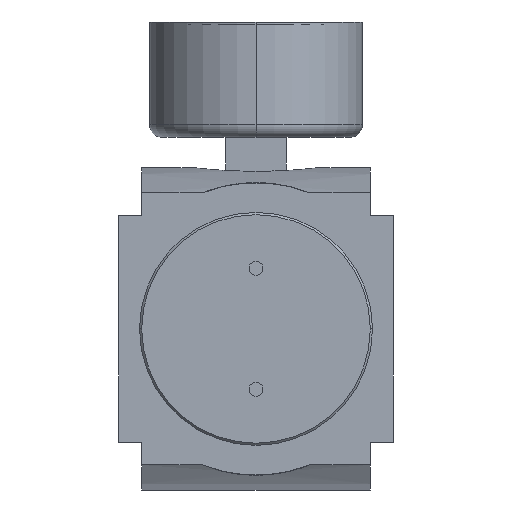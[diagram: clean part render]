
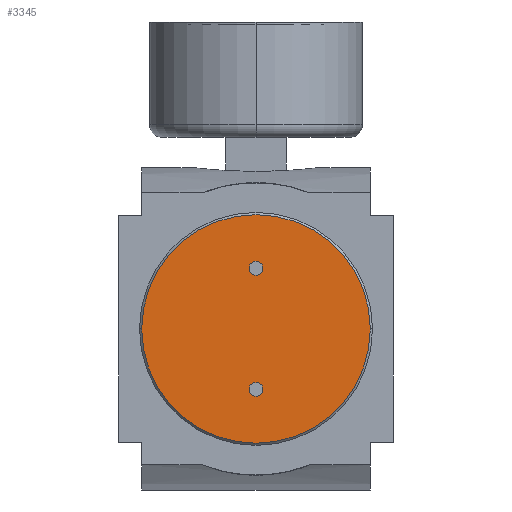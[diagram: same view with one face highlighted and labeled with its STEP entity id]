
A CAD part, front view. The second image highlights one B-rep face of the part: STEP entity #3345.
In plain terms, the highlighted planar face has unit normal (0, -1, 0).
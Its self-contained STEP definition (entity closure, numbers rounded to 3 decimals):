
#1335=CARTESIAN_POINT('',(0.,-39.5,0.));
#1336=DIRECTION('',(0.,-1.,0.));
#1337=DIRECTION('',(-1.,0.,0.));
#1338=AXIS2_PLACEMENT_3D('',#1335,#1336,#1337);
#1340=CARTESIAN_POINT('',(0.,-39.5,0.));
#1341=DIRECTION('',(0.,1.,0.));
#1342=DIRECTION('',(-1.,0.,0.));
#1343=AXIS2_PLACEMENT_3D('',#1340,#1341,#1342);
#1345=CARTESIAN_POINT('',(0.,-39.5,13.9));
#1346=DIRECTION('',(0.,-1.,0.));
#1347=DIRECTION('',(0.,0.,-1.));
#1348=AXIS2_PLACEMENT_3D('',#1345,#1346,#1347);
#1350=CARTESIAN_POINT('',(0.,-39.5,13.9));
#1351=DIRECTION('',(0.,-1.,0.));
#1352=DIRECTION('',(0.,0.,1.));
#1353=AXIS2_PLACEMENT_3D('',#1350,#1351,#1352);
#1355=CARTESIAN_POINT('',(0.,-39.5,-13.9));
#1356=DIRECTION('',(0.,-1.,0.));
#1357=DIRECTION('',(0.,0.,-1.));
#1358=AXIS2_PLACEMENT_3D('',#1355,#1356,#1357);
#1360=CARTESIAN_POINT('',(0.,-39.5,-13.9));
#1361=DIRECTION('',(0.,-1.,0.));
#1362=DIRECTION('',(0.,0.,1.));
#1363=AXIS2_PLACEMENT_3D('',#1360,#1361,#1362);
#1719=CARTESIAN_POINT('',(0.,-39.5,12.3));
#1720=CARTESIAN_POINT('',(0.,-39.5,15.5));
#1721=VERTEX_POINT('',#1719);
#1722=VERTEX_POINT('',#1720);
#1723=CARTESIAN_POINT('',(0.,-39.5,-15.5));
#1724=CARTESIAN_POINT('',(0.,-39.5,-12.3));
#1725=VERTEX_POINT('',#1723);
#1726=VERTEX_POINT('',#1724);
#1873=CARTESIAN_POINT('',(-26.25,-39.5,0.));
#1874=VERTEX_POINT('',#1873);
#1877=CARTESIAN_POINT('',(26.25,-39.5,0.));
#1878=VERTEX_POINT('',#1877);
#3324=CARTESIAN_POINT('',(0.,-39.5,0.));
#3325=DIRECTION('',(0.,1.,0.));
#3326=DIRECTION('',(1.,0.,0.));
#3327=AXIS2_PLACEMENT_3D('',#3324,#3325,#3326);
#3328=PLANE('',#3327);
#3329=ORIENTED_EDGE('',*,*,#3303,.F.);
#3330=ORIENTED_EDGE('',*,*,#3319,.T.);
#3331=EDGE_LOOP('',(#3329,#3330));
#3332=FACE_OUTER_BOUND('',#3331,.F.);
#3334=ORIENTED_EDGE('',*,*,#3333,.T.);
#3336=ORIENTED_EDGE('',*,*,#3335,.T.);
#3337=EDGE_LOOP('',(#3334,#3336));
#3338=FACE_BOUND('',#3337,.F.);
#3340=ORIENTED_EDGE('',*,*,#3339,.T.);
#3342=ORIENTED_EDGE('',*,*,#3341,.T.);
#3343=EDGE_LOOP('',(#3340,#3342));
#3344=FACE_BOUND('',#3343,.F.);
#3345=ADVANCED_FACE('',(#3332,#3338,#3344),#3328,.F.);
#1339=CIRCLE('',#1338,26.25);
#1344=CIRCLE('',#1343,26.25);
#1349=CIRCLE('',#1348,1.6);
#1354=CIRCLE('',#1353,1.6);
#1359=CIRCLE('',#1358,1.6);
#1364=CIRCLE('',#1363,1.6);
#3303=EDGE_CURVE('',#1874,#1878,#1339,.T.);
#3319=EDGE_CURVE('',#1874,#1878,#1344,.T.);
#3333=EDGE_CURVE('',#1721,#1722,#1349,.T.);
#3335=EDGE_CURVE('',#1722,#1721,#1354,.T.);
#3339=EDGE_CURVE('',#1725,#1726,#1359,.T.);
#3341=EDGE_CURVE('',#1726,#1725,#1364,.T.);
